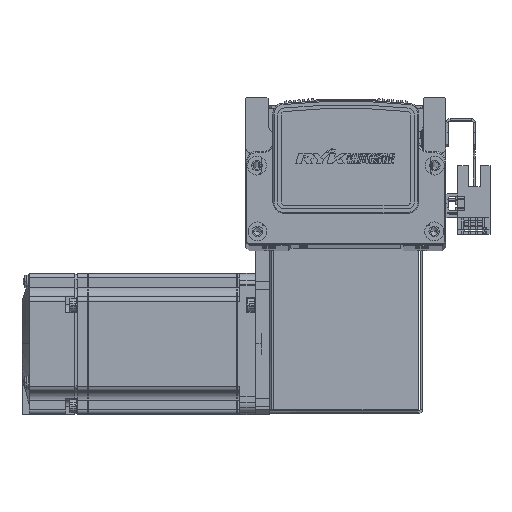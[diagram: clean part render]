
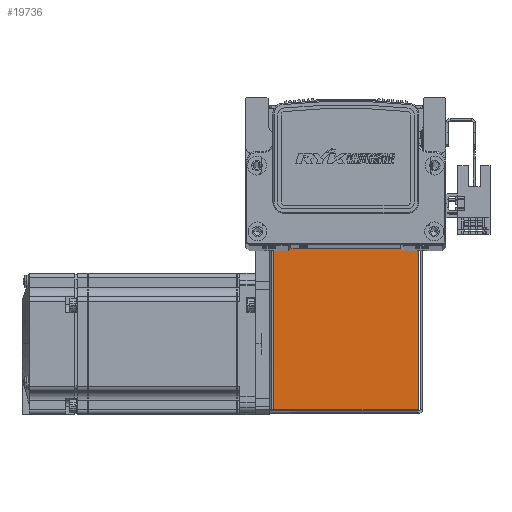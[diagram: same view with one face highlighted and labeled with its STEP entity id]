
A CAD part, top view. The second image highlights one B-rep face of the part: STEP entity #19736.
In plain terms, the highlighted planar face has unit normal (0, 0, 1) as drawn and (0, 0, -1) by its records, which use the part's own axes.
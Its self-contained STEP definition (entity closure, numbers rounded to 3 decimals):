
#4239 = CARTESIAN_POINT ( 'NONE',  ( -30.793, 72.5, -35. ) ) ;
#4257 = CARTESIAN_POINT ( 'NONE',  ( -30.793, 0.737, -35. ) ) ;
#4304 = CARTESIAN_POINT ( 'NONE',  ( 30.763, 0.737, -35. ) ) ;
#4480 = CARTESIAN_POINT ( 'NONE',  ( 30.763, 72.5, -35. ) ) ;
#13760 = EDGE_LOOP ( 'NONE', ( #20797, #20854, #20813, #20793 ) ) ;
#19736 = ADVANCED_FACE ( 'NONE', ( #64575 ), #65951, .F. ) ;
#20793 = ORIENTED_EDGE ( 'NONE', *, *, #24037, .T. ) ;
#20797 = ORIENTED_EDGE ( 'NONE', *, *, #24107, .T. ) ;
#20813 = ORIENTED_EDGE ( 'NONE', *, *, #24129, .T. ) ;
#20854 = ORIENTED_EDGE ( 'NONE', *, *, #24041, .F. ) ;
#24037 = EDGE_CURVE ( 'NONE', #44464, #44569, #64696, .T. ) ;
#24041 = EDGE_CURVE ( 'NONE', #44476, #44494, #64772, .T. ) ;
#24107 = EDGE_CURVE ( 'NONE', #44569, #44494, #64836, .T. ) ;
#24129 = EDGE_CURVE ( 'NONE', #44476, #44464, #64841, .T. ) ;
#44464 = VERTEX_POINT ( 'NONE', #4239 ) ;
#44476 = VERTEX_POINT ( 'NONE', #4257 ) ;
#44494 = VERTEX_POINT ( 'NONE', #4304 ) ;
#44569 = VERTEX_POINT ( 'NONE', #4480 ) ;
#46801 = AXIS2_PLACEMENT_3D ( 'NONE', #65957, #65958, #65962 ) ;
#62525 = CARTESIAN_POINT ( 'NONE',  ( 0., 72.5, -35. ) ) ;
#62544 = DIRECTION ( 'NONE',  ( 1., 0., 0. ) ) ;
#62548 = DIRECTION ( 'NONE',  ( 1., 0., 0. ) ) ;
#62549 = CARTESIAN_POINT ( 'NONE',  ( 32.5, 0.737, -35. ) ) ;
#62635 = CARTESIAN_POINT ( 'NONE',  ( 30.763, 72.5, -35. ) ) ;
#62636 = DIRECTION ( 'NONE',  ( 0., -1., 0. ) ) ;
#62674 = CARTESIAN_POINT ( 'NONE',  ( -30.793, 0., -35. ) ) ;
#62678 = DIRECTION ( 'NONE',  ( 0., 1., 0. ) ) ;
#64575 = FACE_OUTER_BOUND ( 'NONE', #13760, .T. ) ;
#64696 = LINE ( 'NONE', #62525, #64698 ) ;
#64698 = VECTOR ( 'NONE', #62544, 1000. ) ;
#64714 = VECTOR ( 'NONE', #62548, 1000. ) ;
#64772 = LINE ( 'NONE', #62549, #64714 ) ;
#64795 = VECTOR ( 'NONE', #62636, 1000. ) ;
#64836 = LINE ( 'NONE', #62635, #64795 ) ;
#64841 = LINE ( 'NONE', #62674, #64842 ) ;
#64842 = VECTOR ( 'NONE', #62678, 1000. ) ;
#65951 = PLANE ( 'NONE',  #46801 ) ;
#65957 = CARTESIAN_POINT ( 'NONE',  ( 0., 0., -35. ) ) ;
#65958 = DIRECTION ( 'NONE',  ( 0., 0., 1. ) ) ;
#65962 = DIRECTION ( 'NONE',  ( 0., -1., 0. ) ) ;
